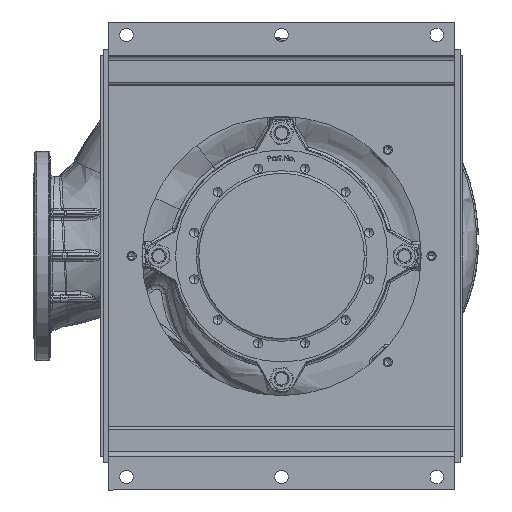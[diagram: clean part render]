
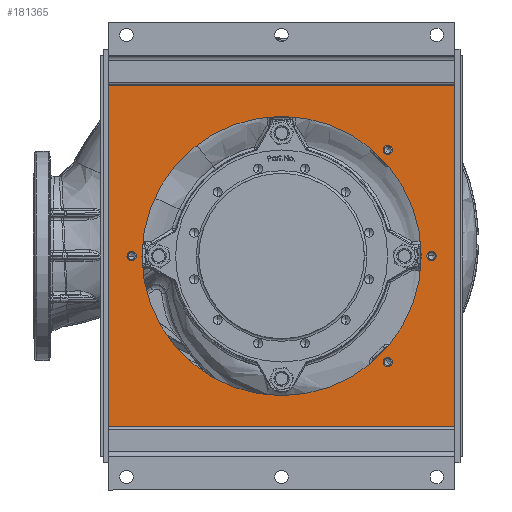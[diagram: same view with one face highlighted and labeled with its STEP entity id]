
A CAD part, front view. The second image highlights one B-rep face of the part: STEP entity #181365.
In plain terms, the highlighted planar face has unit normal (0, -1, 0).
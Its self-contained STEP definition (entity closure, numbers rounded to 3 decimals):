
#93 = EDGE_CURVE ( 'NONE', #173480, #39803, #196557, .T. ) ;
#2192 = CARTESIAN_POINT ( 'NONE',  ( 350., -511.5, -387.5 ) ) ;
#4740 = ORIENTED_EDGE ( 'NONE', *, *, #147479, .T. ) ;
#4856 = DIRECTION ( 'NONE',  ( -1., 0., 0. ) ) ;
#6353 = EDGE_LOOP ( 'NONE', ( #118042, #4740, #172712, #199301 ) ) ;
#9386 = AXIS2_PLACEMENT_3D ( 'NONE', #182682, #182247, #181290 ) ;
#10794 = VECTOR ( 'NONE', #69975, 1000. ) ;
#15767 = DIRECTION ( 'NONE',  ( -1., 0., 0. ) ) ;
#15806 = VERTEX_POINT ( 'NONE', #85970 ) ;
#16206 = CARTESIAN_POINT ( 'NONE',  ( 270., -511.5, 0. ) ) ;
#16764 = VECTOR ( 'NONE', #86247, 1000. ) ;
#17403 = AXIS2_PLACEMENT_3D ( 'NONE', #44061, #153961, #59850 ) ;
#17974 = DIRECTION ( 'NONE',  ( -1., 0., 0. ) ) ;
#21797 = FACE_BOUND ( 'NONE', #89396, .T. ) ;
#23333 = CIRCLE ( 'NONE', #17403, 9. ) ;
#23972 = EDGE_LOOP ( 'NONE', ( #127643, #154736 ) ) ;
#27404 = CARTESIAN_POINT ( 'NONE',  ( 335., -511.5, -330.5 ) ) ;
#27805 = CIRCLE ( 'NONE', #109526, 9. ) ;
#29769 = CIRCLE ( 'NONE', #98108, 9. ) ;
#31408 = ORIENTED_EDGE ( 'NONE', *, *, #149874, .T. ) ;
#32914 = ORIENTED_EDGE ( 'NONE', *, *, #167116, .T. ) ;
#34237 = VERTEX_POINT ( 'NONE', #47879 ) ;
#36083 = ORIENTED_EDGE ( 'NONE', *, *, #144750, .T. ) ;
#37316 = CIRCLE ( 'NONE', #76666, 270. ) ;
#38262 = AXIS2_PLACEMENT_3D ( 'NONE', #136888, #42845, #152716 ) ;
#38708 = AXIS2_PLACEMENT_3D ( 'NONE', #193249, #98889, #4856 ) ;
#38774 = AXIS2_PLACEMENT_3D ( 'NONE', #2192, #112051, #17974 ) ;
#39453 = CIRCLE ( 'NONE', #95098, 9. ) ;
#39803 = VERTEX_POINT ( 'NONE', #16206 ) ;
#42845 = DIRECTION ( 'NONE',  ( 0., 1., 0. ) ) ;
#44061 = CARTESIAN_POINT ( 'NONE',  ( 205.061, -511.5, 205.061 ) ) ;
#47879 = CARTESIAN_POINT ( 'NONE',  ( -299., -511.5, 0. ) ) ;
#48089 = ORIENTED_EDGE ( 'NONE', *, *, #93, .T. ) ;
#48851 = EDGE_CURVE ( 'NONE', #201426, #116925, #52616, .T. ) ;
#52328 = CARTESIAN_POINT ( 'NONE',  ( 205.061, -511.5, -205.061 ) ) ;
#52616 = LINE ( 'NONE', #69308, #10794 ) ;
#53947 = EDGE_CURVE ( 'NONE', #196609, #15806, #29769, .T. ) ;
#55894 = CARTESIAN_POINT ( 'NONE',  ( 196.061, -511.5, 205.061 ) ) ;
#58602 = CARTESIAN_POINT ( 'NONE',  ( 299., -511.5, 0. ) ) ;
#59850 = DIRECTION ( 'NONE',  ( -1., 0., 0. ) ) ;
#63484 = LINE ( 'NONE', #85268, #189078 ) ;
#63544 = FACE_BOUND ( 'NONE', #99626, .T. ) ;
#63971 = CARTESIAN_POINT ( 'NONE',  ( -335., -511.5, 330.5 ) ) ;
#68122 = DIRECTION ( 'NONE',  ( -1., 0., 0. ) ) ;
#68388 = VERTEX_POINT ( 'NONE', #134986 ) ;
#69308 = CARTESIAN_POINT ( 'NONE',  ( 335., -511.5, 400. ) ) ;
#69975 = DIRECTION ( 'NONE',  ( 0., 0., 1. ) ) ;
#72369 = LINE ( 'NONE', #187964, #156013 ) ;
#73591 = DIRECTION ( 'NONE',  ( 0., 1., 0. ) ) ;
#76666 = AXIS2_PLACEMENT_3D ( 'NONE', #167810, #73591, #183753 ) ;
#76844 = CARTESIAN_POINT ( 'NONE',  ( -290., -511.5, 0. ) ) ;
#78332 = VERTEX_POINT ( 'NONE', #58602 ) ;
#78665 = DIRECTION ( 'NONE',  ( 0., 1., 0. ) ) ;
#80282 = VERTEX_POINT ( 'NONE', #134525 ) ;
#85268 = CARTESIAN_POINT ( 'NONE',  ( -335., -511.5, 330.5 ) ) ;
#85970 = CARTESIAN_POINT ( 'NONE',  ( 196.061, -511.5, -205.061 ) ) ;
#86227 = DIRECTION ( 'NONE',  ( 0., 1., 0. ) ) ;
#86247 = DIRECTION ( 'NONE',  ( 0., 0., 1. ) ) ;
#86393 = CARTESIAN_POINT ( 'NONE',  ( 281., -511.5, 0. ) ) ;
#88215 = EDGE_CURVE ( 'NONE', #34237, #150392, #178788, .T. ) ;
#89396 = EDGE_LOOP ( 'NONE', ( #196987, #110458 ) ) ;
#91719 = ORIENTED_EDGE ( 'NONE', *, *, #88215, .T. ) ;
#92672 = DIRECTION ( 'NONE',  ( -1., 0., 0. ) ) ;
#95098 = AXIS2_PLACEMENT_3D ( 'NONE', #180539, #86227, #196449 ) ;
#98108 = AXIS2_PLACEMENT_3D ( 'NONE', #204364, #109859, #15767 ) ;
#98889 = DIRECTION ( 'NONE',  ( 0., 1., 0. ) ) ;
#99626 = EDGE_LOOP ( 'NONE', ( #185923, #32914 ) ) ;
#103339 = CARTESIAN_POINT ( 'NONE',  ( 335., -511.5, 330.5 ) ) ;
#105312 = FACE_BOUND ( 'NONE', #23972, .T. ) ;
#109290 = EDGE_CURVE ( 'NONE', #128289, #78332, #178884, .T. ) ;
#109526 = AXIS2_PLACEMENT_3D ( 'NONE', #76844, #187009, #92672 ) ;
#109859 = DIRECTION ( 'NONE',  ( 0., 1., 0. ) ) ;
#110458 = ORIENTED_EDGE ( 'NONE', *, *, #53947, .T. ) ;
#112051 = DIRECTION ( 'NONE',  ( 0., 1., 0. ) ) ;
#116925 = VERTEX_POINT ( 'NONE', #103339 ) ;
#118042 = ORIENTED_EDGE ( 'NONE', *, *, #126417, .F. ) ;
#118116 = EDGE_LOOP ( 'NONE', ( #36083, #48089 ) ) ;
#118741 = AXIS2_PLACEMENT_3D ( 'NONE', #52328, #162267, #68122 ) ;
#123958 = CIRCLE ( 'NONE', #38262, 9. ) ;
#126417 = EDGE_CURVE ( 'NONE', #80282, #176252, #184144, .T. ) ;
#127643 = ORIENTED_EDGE ( 'NONE', *, *, #165904, .T. ) ;
#128289 = VERTEX_POINT ( 'NONE', #86393 ) ;
#130929 = EDGE_LOOP ( 'NONE', ( #91719, #31408 ) ) ;
#132418 = VERTEX_POINT ( 'NONE', #55894 ) ;
#134525 = CARTESIAN_POINT ( 'NONE',  ( -335., -511.5, -330.5 ) ) ;
#134986 = CARTESIAN_POINT ( 'NONE',  ( 214.061, -511.5, 205.061 ) ) ;
#136888 = CARTESIAN_POINT ( 'NONE',  ( 205.061, -511.5, 205.061 ) ) ;
#142114 = FACE_OUTER_BOUND ( 'NONE', #6353, .T. ) ;
#142926 = PLANE ( 'NONE',  #38774 ) ;
#144750 = EDGE_CURVE ( 'NONE', #39803, #173480, #37316, .T. ) ;
#147056 = FACE_BOUND ( 'NONE', #130929, .T. ) ;
#147479 = EDGE_CURVE ( 'NONE', #80282, #201426, #72369, .T. ) ;
#149874 = EDGE_CURVE ( 'NONE', #150392, #34237, #27805, .T. ) ;
#150392 = VERTEX_POINT ( 'NONE', #171370 ) ;
#152716 = DIRECTION ( 'NONE',  ( -1., 0., 0. ) ) ;
#153961 = DIRECTION ( 'NONE',  ( 0., 1., 0. ) ) ;
#154736 = ORIENTED_EDGE ( 'NONE', *, *, #175004, .T. ) ;
#156013 = VECTOR ( 'NONE', #183201, 1000. ) ;
#160246 = CARTESIAN_POINT ( 'NONE',  ( -270., -511.5, 0. ) ) ;
#162267 = DIRECTION ( 'NONE',  ( 0., 1., 0. ) ) ;
#165031 = AXIS2_PLACEMENT_3D ( 'NONE', #172898, #78665, #188847 ) ;
#165904 = EDGE_CURVE ( 'NONE', #132418, #68388, #123958, .T. ) ;
#167029 = CARTESIAN_POINT ( 'NONE',  ( 214.061, -511.5, -205.061 ) ) ;
#167116 = EDGE_CURVE ( 'NONE', #78332, #128289, #39453, .T. ) ;
#167810 = CARTESIAN_POINT ( 'NONE',  ( 0., -511.5, 0. ) ) ;
#171370 = CARTESIAN_POINT ( 'NONE',  ( -281., -511.5, 0. ) ) ;
#172712 = ORIENTED_EDGE ( 'NONE', *, *, #48851, .T. ) ;
#172898 = CARTESIAN_POINT ( 'NONE',  ( -290., -511.5, 0. ) ) ;
#173480 = VERTEX_POINT ( 'NONE', #160246 ) ;
#175004 = EDGE_CURVE ( 'NONE', #68388, #132418, #23333, .T. ) ;
#176252 = VERTEX_POINT ( 'NONE', #63971 ) ;
#178788 = CIRCLE ( 'NONE', #165031, 9. ) ;
#178872 = DIRECTION ( 'NONE',  ( 1., 0., 0. ) ) ;
#178884 = CIRCLE ( 'NONE', #38708, 9. ) ;
#180539 = CARTESIAN_POINT ( 'NONE',  ( 290., -511.5, 0. ) ) ;
#180561 = CARTESIAN_POINT ( 'NONE',  ( -335., -511.5, 400. ) ) ;
#181290 = DIRECTION ( 'NONE',  ( -1., 0., 0. ) ) ;
#181365 = ADVANCED_FACE ( 'NONE', ( #105312, #147056, #63544, #21797, #184210, #142114 ), #142926, .F. ) ;
#182247 = DIRECTION ( 'NONE',  ( 0., 1., 0. ) ) ;
#182682 = CARTESIAN_POINT ( 'NONE',  ( 0., -511.5, 0. ) ) ;
#183201 = DIRECTION ( 'NONE',  ( 1., 0., 0. ) ) ;
#183753 = DIRECTION ( 'NONE',  ( -1., 0., 0. ) ) ;
#184144 = LINE ( 'NONE', #180561, #16764 ) ;
#184210 = FACE_BOUND ( 'NONE', #118116, .T. ) ;
#185497 = CIRCLE ( 'NONE', #118741, 9. ) ;
#185923 = ORIENTED_EDGE ( 'NONE', *, *, #109290, .T. ) ;
#187009 = DIRECTION ( 'NONE',  ( 0., 1., 0. ) ) ;
#187964 = CARTESIAN_POINT ( 'NONE',  ( -335., -511.5, -330.5 ) ) ;
#188847 = DIRECTION ( 'NONE',  ( -1., 0., 0. ) ) ;
#189078 = VECTOR ( 'NONE', #178872, 1000. ) ;
#193249 = CARTESIAN_POINT ( 'NONE',  ( 290., -511.5, 0. ) ) ;
#193784 = EDGE_CURVE ( 'NONE', #15806, #196609, #185497, .T. ) ;
#196449 = DIRECTION ( 'NONE',  ( -1., 0., 0. ) ) ;
#196531 = EDGE_CURVE ( 'NONE', #176252, #116925, #63484, .T. ) ;
#196557 = CIRCLE ( 'NONE', #9386, 270. ) ;
#196609 = VERTEX_POINT ( 'NONE', #167029 ) ;
#196987 = ORIENTED_EDGE ( 'NONE', *, *, #193784, .T. ) ;
#199301 = ORIENTED_EDGE ( 'NONE', *, *, #196531, .F. ) ;
#201426 = VERTEX_POINT ( 'NONE', #27404 ) ;
#204364 = CARTESIAN_POINT ( 'NONE',  ( 205.061, -511.5, -205.061 ) ) ;
